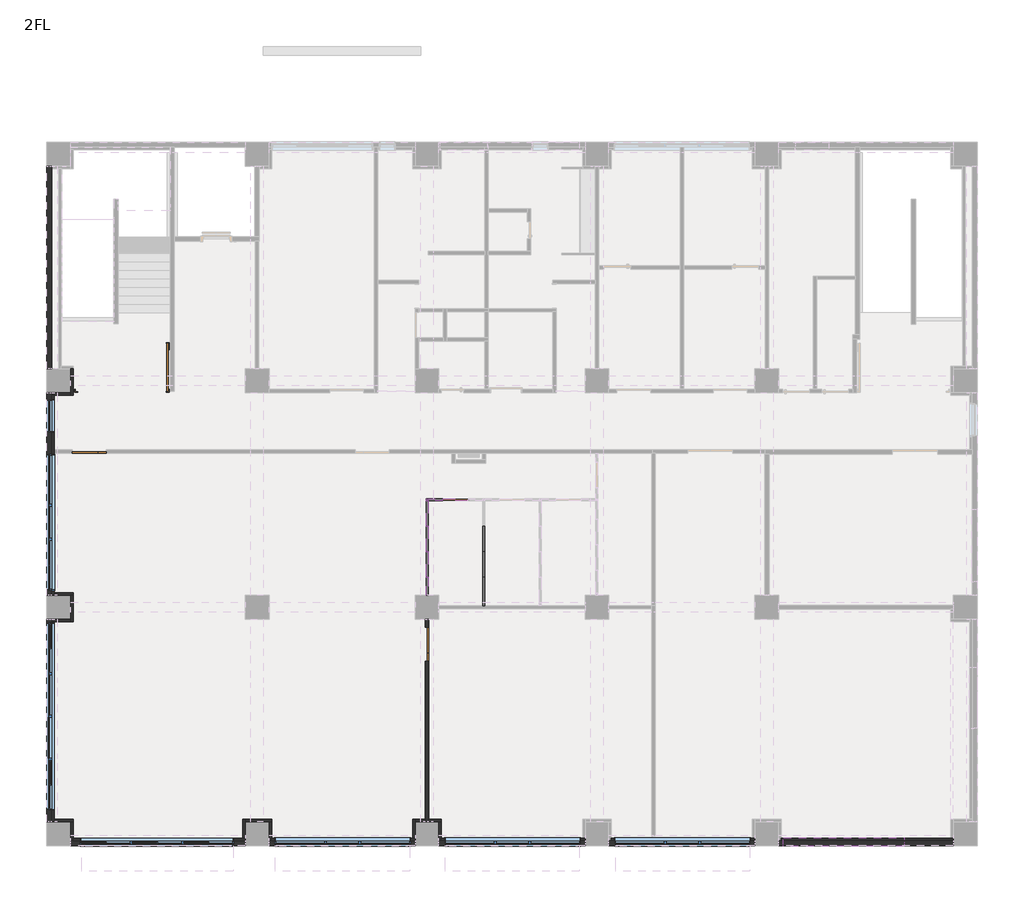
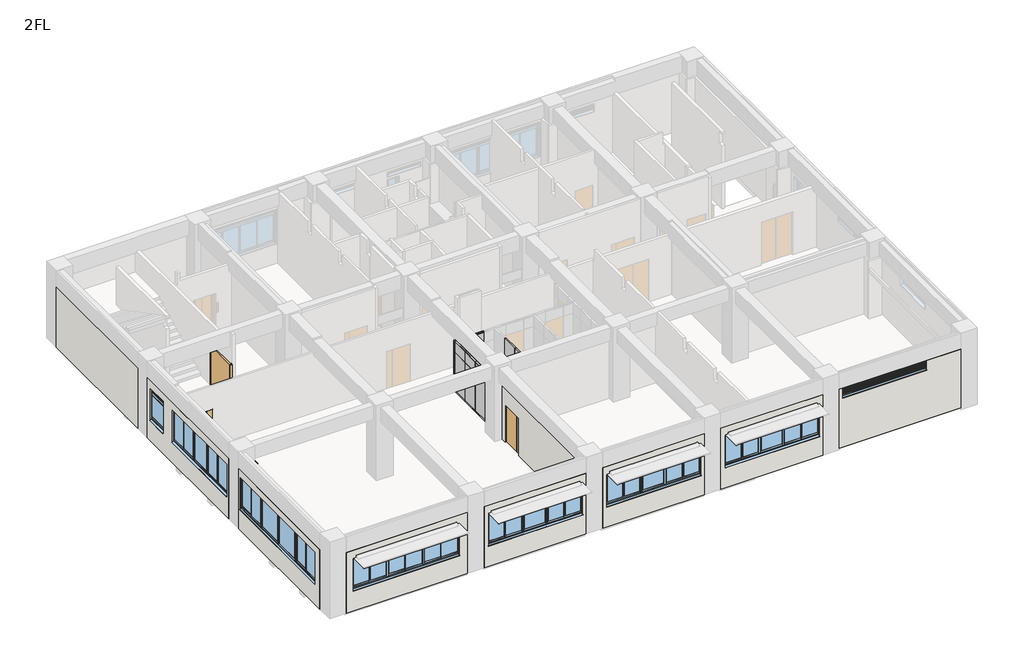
# One storey, part 1 of 7: 23 walls, 19 plates, 8 windows, 5 members, 4 doors.
"""IFC4 building model written with IfcOpenShell, lengths in millimetres."""

from ifc_helpers import new_model, si_unit, origin, place, context, project, spatial, faceted_brep, transform, mapped, element, save
from components import door_18b0804b, door_c235f466, pt1_1e1990d0, sd12_bd36843f, member_b4131282, member_8fee23aa, plate_5a323a1a, plate_79e9bfaa, plate_84f50978, plate_53a28b3e, plate_90ae5f52, plate_9f777739, plate_48083828, plate_facfa67a, pt_5_5902302a, ag_02_89f51cda, aw1_359d20a0, aw2_52e0dac3, aw3_6590dba5, aw6a_3e550bbd

model = new_model("IFC4")

# Units and contexts
model_context = context("Model", 3, world=origin())
ifc_project = project(units=[si_unit("LENGTHUNIT", "METRE", prefix="MILLI")], contexts=[model_context])

# Site, building, storey
site = spatial("IfcSite", under=ifc_project)
building = spatial("IfcBuilding", under=site)
storey = spatial("IfcBuildingStorey", under=building, Name="2FL", Elevation=4100.0)

# Doors
placement = place(None, origin())
door_shape = door_18b0804b(model_context)
element("IfcDoor", 1, ObjectType="営_親子扉 : LD2 1200*2000", at=placement, inside=storey, context=model_context, shape_type="MappedRepresentation", body=[
    mapped(door_shape, transform((1065.0, 13500.0, 4100.0), x_axis=(-1.0, 0.0, 0.0), y_axis=(0.0, -1.0, 0.0), z_axis=(0.0, 0.0, 1.0))),
])
door_2_shape = door_c235f466(model_context)
element("IfcDoor", 2, ObjectType="営_親子扉 : LD2 1200*2000", at=placement, inside=storey, context=model_context, shape_type="MappedRepresentation", body=[
    mapped(door_2_shape, transform((13000.0, 6700.0, 4100.0), x_axis=(0.0, 1.0, 0.0), y_axis=(-1.0, 0.0, 0.0), z_axis=(0.0, 0.0, 1.0))),
])
pt1_shape = pt1_1e1990d0(model_context)
element("IfcDoor", 3, ObjectType="営_パーティションドア : PT3", at=placement, inside=storey, context=model_context, shape_type="MappedRepresentation", body=[
    mapped(pt1_shape, transform((14000.0, 11800.0, 4100.0), x_axis=(-1.0, 0.0, 0.0), y_axis=(0.0, -1.0, 0.0), z_axis=(0.0, 0.0, 1.0))),
])
sd12_shape = sd12_bd36843f(model_context)
element("IfcDoor", 4, ObjectType="営_随閉扉 B階段 2～4F : SD12", at=placement, inside=storey, context=model_context, shape_type="MappedRepresentation", body=[
    mapped(sd12_shape, transform((4000.0, 15635.0, 4100.0), x_axis=(0.0, -1.0, 0.0), y_axis=(1.0, 0.0, 0.0), z_axis=(0.0, 0.0, 1.0))),
])

# Members
member_shape = member_b4131282(model_context)
element("IfcMember", 5, ObjectType="長方形マリオン : 70*70", at=placement, inside=storey, context=model_context, shape_type="MappedRepresentation", body=[
    mapped(member_shape, transform((13000.0, 11835.0, 4100.0), x_axis=(0.0, 1.0, 0.0), y_axis=(1.0, 0.0, 0.0), z_axis=(0.0, 0.0, -1.0))),
])
member_2_shape = member_8fee23aa(model_context)
element("IfcMember", 6, ObjectType="長方形マリオン : 70*70", at=placement, inside=storey, context=model_context, shape_type="MappedRepresentation", body=[
    mapped(member_2_shape, transform((13000.0, 11835.0, 6200.0), x_axis=(0.0, 1.0, 0.0), y_axis=(1.0, 0.0, 0.0), z_axis=(0.0, 0.0, -1.0))),
])
element("IfcMember", 7, ObjectType="長方形マリオン : 70*70", at=placement, inside=storey, context=model_context, shape_type="MappedRepresentation", body=[
    mapped(member_shape, transform((12965.0, 11800.0, 6200.0), x_axis=(-1.0, 0.0, 0.0), y_axis=(0.0, -1.0, 0.0), z_axis=(0.0, 0.0, 1.0))),
])
element("IfcMember", 8, ObjectType="長方形マリオン : 70*70", at=placement, inside=storey, context=model_context, shape_type="MappedRepresentation", body=[
    mapped(member_2_shape, transform((12965.0, 11800.0, 6800.0), x_axis=(-1.0, 0.0, 0.0), y_axis=(0.0, -1.0, 0.0), z_axis=(0.0, 0.0, 1.0))),
])
element("IfcMember", 9, ObjectType="長方形マリオン : 70*70", at=placement, inside=storey, context=model_context, shape_type="MappedRepresentation", body=[
    mapped(member_2_shape, transform((15000.0, 8060.0, 4700.0), x_axis=(0.0, -1.0, 0.0), y_axis=(1.0, 0.0, 0.0), z_axis=(0.0, 0.0, 1.0))),
])

# Plates
plate_shape = plate_5a323a1a(model_context)
element("IfcPlate", 10, ObjectType="営_パーティションパネル_下部 : パーティションパネル_下部", at=placement, inside=storey, context=model_context, shape_type="MappedRepresentation", body=[
    mapped(plate_shape, transform((15000.0, 8147.4999998, 4100.0), x_axis=(0.0, 1.0, 0.0), y_axis=(-1.0, 0.0, 0.0), z_axis=(0.0, 0.0, 1.0))),
])
plate_2_shape = plate_79e9bfaa(model_context)
element("IfcPlate", 11, ObjectType="営_パーティションパネル_下部 : パーティションパネル_下部", at=placement, inside=storey, context=model_context, shape_type="MappedRepresentation", body=[
    mapped(plate_2_shape, transform((15000.0, 8112.4999998, 4700.0), x_axis=(0.0, 1.0, 0.0), y_axis=(-1.0, 0.0, 0.0), z_axis=(0.0, 0.0, 1.0))),
])
plate_3_shape = plate_84f50978(model_context)
element("IfcPlate", 12, ObjectType="営_パーティションパネル_下部 : パーティションパネル_下部", at=placement, inside=storey, context=model_context, shape_type="MappedRepresentation", body=[
    mapped(plate_3_shape, transform((13000.0, 9514.9999997, 4100.0), x_axis=(0.0, 1.0, 0.0), y_axis=(-1.0, 0.0, 0.0), z_axis=(0.0, 0.0, 1.0))),
])
element("IfcPlate", 13, ObjectType="営_パーティションパネル_下部 : パーティションパネル_下部", at=placement, inside=storey, context=model_context, shape_type="MappedRepresentation", body=[
    mapped(plate_3_shape, transform((13000.0, 10414.9999997, 4100.0), x_axis=(0.0, 1.0, 0.0), y_axis=(-1.0, 0.0, 0.0), z_axis=(0.0, 0.0, 1.0))),
])
element("IfcPlate", 14, ObjectType="営_パーティションパネル_下部 : パーティションパネル_下部", at=placement, inside=storey, context=model_context, shape_type="MappedRepresentation", body=[
    mapped(plate_3_shape, transform((13000.0, 11314.9999998, 4100.0), x_axis=(0.0, 1.0, 0.0), y_axis=(-1.0, 0.0, 0.0), z_axis=(0.0, 0.0, 1.0))),
])
element("IfcPlate", 15, ObjectType="営_パーティションパネル_下部 : パーティションパネル_下部", at=placement, inside=storey, context=model_context, shape_type="MappedRepresentation", body=[
    mapped(plate_3_shape, transform((15000.0, 8614.9999997, 4700.0), x_axis=(0.0, 1.0, 0.0), y_axis=(-1.0, 0.0, 0.0), z_axis=(0.0, 0.0, 1.0))),
])
element("IfcPlate", 16, ObjectType="営_パーティションパネル_下部 : パーティションパネル_下部", at=placement, inside=storey, context=model_context, shape_type="MappedRepresentation", body=[
    mapped(plate_3_shape, transform((15000.0, 9514.9999997, 4700.0), x_axis=(0.0, 1.0, 0.0), y_axis=(-1.0, 0.0, 0.0), z_axis=(0.0, 0.0, 1.0))),
])
element("IfcPlate", 17, ObjectType="営_パーティションパネル_下部 : パーティションパネル_下部", at=placement, inside=storey, context=model_context, shape_type="MappedRepresentation", body=[
    mapped(plate_3_shape, transform((15000.0, 10414.9999997, 4700.0), x_axis=(0.0, 1.0, 0.0), y_axis=(-1.0, 0.0, 0.0), z_axis=(0.0, 0.0, 1.0))),
])
plate_4_shape = plate_53a28b3e(model_context)
element("IfcPlate", 18, ObjectType="営_パーティションパネル_上部 : パーティションパネル_上部", at=placement, inside=storey, context=model_context, shape_type="MappedRepresentation", body=[
    mapped(plate_4_shape, transform((13000.0, 9514.9999997, 6200.0), x_axis=(0.0, 1.0, 0.0), y_axis=(-1.0, 0.0, 0.0), z_axis=(0.0, 0.0, 1.0))),
])
element("IfcPlate", 19, ObjectType="営_パーティションパネル_上部 : パーティションパネル_上部", at=placement, inside=storey, context=model_context, shape_type="MappedRepresentation", body=[
    mapped(plate_4_shape, transform((13000.0, 10414.9999997, 6200.0), x_axis=(0.0, 1.0, 0.0), y_axis=(-1.0, 0.0, 0.0), z_axis=(0.0, 0.0, 1.0))),
])
element("IfcPlate", 20, ObjectType="営_パーティションパネル_上部 : パーティションパネル_上部", at=placement, inside=storey, context=model_context, shape_type="MappedRepresentation", body=[
    mapped(plate_4_shape, transform((13000.0, 11314.9999998, 6200.0), x_axis=(0.0, 1.0, 0.0), y_axis=(-1.0, 0.0, 0.0), z_axis=(0.0, 0.0, 1.0))),
])
element("IfcPlate", 21, ObjectType="営_パーティションパネル_上部 : パーティションパネル_上部", at=placement, inside=storey, context=model_context, shape_type="MappedRepresentation", body=[
    mapped(plate_4_shape, transform((14000.0, 11800.0, 6200.0), x_axis=(1.0, 0.0, 0.0), y_axis=(0.0, 1.0, 0.0), z_axis=(0.0, 0.0, 1.0))),
])
plate_5_shape = plate_90ae5f52(model_context)
element("IfcPlate", 22, ObjectType="営_パーティションパネル_下部 : パーティションパネル_下部", at=placement, inside=storey, context=model_context, shape_type="MappedRepresentation", body=[
    mapped(plate_5_shape, transform((13292.5, 11800.0, 4100.0), x_axis=(1.0, 0.0, 0.0), y_axis=(0.0, 1.0, 0.0), z_axis=(0.0, 0.0, 1.0))),
])
plate_6_shape = plate_9f777739(model_context)
element("IfcPlate", 23, ObjectType="営_パーティションパネル_上部 : パーティションパネル_上部", at=placement, inside=storey, context=model_context, shape_type="MappedRepresentation", body=[
    mapped(plate_6_shape, transform((13292.5, 11800.0, 6200.0), x_axis=(1.0, 0.0, 0.0), y_axis=(0.0, 1.0, 0.0), z_axis=(0.0, 0.0, 1.0))),
])
plate_7_shape = plate_48083828(model_context)
element("IfcPlate", 24, ObjectType="営_パーティションパネル_下部 : パーティションパネル_下部", at=placement, inside=storey, context=model_context, shape_type="MappedRepresentation", body=[
    mapped(plate_7_shape, transform((13000.0, 8742.4999998, 4100.0), x_axis=(0.0, 1.0, 0.0), y_axis=(-1.0, 0.0, 0.0), z_axis=(0.0, 0.0, 1.0))),
])
plate_8_shape = plate_facfa67a(model_context)
element("IfcPlate", 25, ObjectType="営_パーティションパネル_上部 : パーティションパネル_上部", at=placement, inside=storey, context=model_context, shape_type="MappedRepresentation", body=[
    mapped(plate_8_shape, transform((13000.0, 8742.4999998, 6200.0), x_axis=(0.0, 1.0, 0.0), y_axis=(-1.0, 0.0, 0.0), z_axis=(0.0, 0.0, 1.0))),
])
pt_5_shape = pt_5_5902302a(model_context)
element("IfcPlate", 26, ObjectType="営_パーティションパネル_下部 : パーティションパネル_下部", at=placement, inside=storey, context=model_context, shape_type="MappedRepresentation", body=[
    mapped(pt_5_shape, transform((15000.0, 8614.9999997, 4100.0), x_axis=(0.0, 1.0, 0.0), y_axis=(-1.0, 0.0, 0.0), z_axis=(0.0, 0.0, 1.0))),
])
element("IfcPlate", 27, ObjectType="営_パーティションパネル_下部 : パーティションパネル_下部", at=placement, inside=storey, context=model_context, shape_type="MappedRepresentation", body=[
    mapped(pt_5_shape, transform((15000.0, 10414.9999997, 4100.0), x_axis=(0.0, 1.0, 0.0), y_axis=(-1.0, 0.0, 0.0), z_axis=(0.0, 0.0, 1.0))),
])
element("IfcPlate", 28, ObjectType="営_パーティションパネル_下部 : PT-5", at=placement, inside=storey, context=model_context, shape_type="MappedRepresentation", body=[
    mapped(pt_5_shape, transform((15000.0, 9514.9999997, 4100.0), x_axis=(0.0, 1.0, 0.0), y_axis=(-1.0, 0.0, 0.0), z_axis=(0.0, 0.0, 1.0))),
])

# Walls
element("IfcWall", 29, ObjectType="(外壁)RC150+20", at=placement, inside=storey, context=model_context, shape_type="Brep", body=[
    faceted_brep([(-250.0, 15580.0, 7200.0), (-250.0, 8420.0, 7200.0), (-250.0, 8420.0, 4000.0), (-250.0, 15580.0, 4000.0), (-250.0, 13410.0, 6820.0), (-250.0, 13410.0, 5165.0), (-250.0, 8590.0, 5165.0), (-250.0, 8590.0, 6820.0), (-250.0, 15345.0, 6820.0), (-250.0, 15345.0, 5165.0), (-250.0, 14165.0, 5165.0), (-250.0, 14165.0, 6820.0), (-420.0, 8420.0, 7200.0), (-420.0, 15580.0, 7200.0), (-420.0, 15580.0, 4000.0), (-420.0, 8420.0, 4000.0), (-420.0, 8620.0, 5075.0), (-420.0, 13380.0, 5075.0), (-420.0, 13380.0, 6795.0), (-420.0, 8620.0, 6795.0), (-420.0, 14195.0, 5075.0), (-420.0, 15315.0, 5075.0), (-420.0, 15315.0, 6795.0), (-420.0, 14195.0, 6795.0), (-335.0, 8420.0, 4000.0), (-325.0, 15580.0, 4000.0), (-260.0, 13410.0, 6820.0), (-260.0, 13410.0, 5165.0), (-260.0, 8590.0, 5165.0), (-260.0, 8590.0, 6820.0), (-260.0, 13400.0, 5165.0), (-260.0, 8600.0, 5165.0), (-260.0, 8600.0, 6815.0), (-260.0, 13400.0, 6815.0), (-360.0, 13400.0, 6815.0), (-360.0, 13400.0, 5082.5), (-260.0, 13400.0, 5095.0), (-260.0, 8600.0, 5095.0), (-360.0, 8600.0, 5082.5), (-360.0, 8600.0, 6815.0), (-360.0, 13380.0, 5082.5), (-360.0, 8620.0, 5082.5), (-360.0, 8620.0, 6795.0), (-360.0, 13380.0, 6795.0), (-260.0, 15345.0, 6820.0), (-260.0, 15345.0, 5165.0), (-260.0, 14165.0, 5165.0), (-260.0, 14165.0, 6820.0), (-260.0, 15335.0, 5165.0), (-260.0, 14175.0, 5165.0), (-260.0, 14175.0, 6815.0), (-260.0, 15335.0, 6815.0), (-360.0, 15335.0, 6815.0), (-360.0, 15335.0, 5082.5), (-260.0, 15335.0, 5095.0), (-260.0, 14175.0, 5095.0), (-360.0, 14175.0, 5082.5), (-360.0, 14175.0, 6815.0), (-360.0, 15315.0, 5082.5), (-360.0, 14195.0, 5082.5), (-360.0, 14195.0, 6795.0), (-360.0, 15315.0, 6795.0)], [[[0, 1, 2, 3], [4, 5, 6, 7], [8, 9, 10, 11]], [[12, 13, 14, 15], [16, 17, 18, 19], [20, 21, 22, 23]], [[2, 24, 15, 14, 25, 3]], [[26, 27, 5, 4]], [[28, 29, 7, 6]], [[5, 27, 30, 31, 28, 6]], [[27, 26, 29, 28, 31, 32, 33, 30]], [[26, 4, 7, 29]], [[30, 33, 34, 35, 36]], [[32, 31, 37, 38, 39]], [[36, 35, 40, 17, 16, 41, 38, 37]], [[35, 34, 39, 38, 41, 42, 43, 40]], [[33, 32, 39, 34]], [[31, 30, 36, 37]], [[17, 40, 43, 18]], [[41, 16, 19, 42]], [[43, 42, 19, 18]], [[44, 45, 9, 8]], [[46, 47, 11, 10]], [[9, 45, 48, 49, 46, 10]], [[45, 44, 47, 46, 49, 50, 51, 48]], [[44, 8, 11, 47]], [[48, 51, 52, 53, 54]], [[50, 49, 55, 56, 57]], [[54, 53, 58, 21, 20, 59, 56, 55]], [[53, 52, 57, 56, 59, 60, 61, 58]], [[51, 50, 57, 52]], [[49, 48, 54, 55]], [[21, 58, 61, 22]], [[59, 20, 23, 60]], [[61, 60, 23, 22]], [[15, 24, 2, 1, 12]], [[3, 25, 14, 13, 0]], [[1, 0, 13, 12]]]),
    faceted_brep([(-250.0, 23580.0, 7200.0), (-250.0, 16420.0, 7200.0), (-250.0, 16420.0, 4000.0), (-250.0, 23580.0, 4000.0), (-420.0, 16420.0, 7200.0), (-420.0, 23580.0, 7200.0), (-420.0, 23580.0, 4000.0), (-420.0, 16420.0, 4000.0), (-325.0, 16420.0, 4000.0), (-325.0, 23580.0, 4000.0)], [[[0, 1, 2, 3]], [[4, 5, 6, 7]], [[2, 8, 7, 6, 9, 3]], [[7, 8, 2, 1, 4]], [[3, 9, 6, 5, 0]], [[1, 0, 5, 4]]]),
    faceted_brep([(-250.0, 420.0, 4000.0), (-250.0, 7580.0, 4000.0), (-250.0, 7580.0, 7200.0), (-250.0, 420.0, 7200.0), (-250.0, 7465.0, 6820.0), (-250.0, 7465.0, 5165.0), (-250.0, 835.0, 5165.0), (-250.0, 835.0, 6820.0), (-420.0, 7580.0, 4000.0), (-420.0, 420.0, 4000.0), (-420.0, 420.0, 7200.0), (-420.0, 7580.0, 7200.0), (-420.0, 865.0, 5075.0), (-420.0, 7435.0, 5075.0), (-420.0, 7435.0, 6795.0), (-420.0, 865.0, 6795.0), (-260.0, 7465.0, 6820.0), (-260.0, 7465.0, 5165.0), (-260.0, 835.0, 5165.0), (-260.0, 835.0, 6820.0), (-260.0, 7455.0, 5165.0), (-260.0, 845.0, 5165.0), (-260.0, 845.0, 6815.0), (-260.0, 7455.0, 6815.0), (-360.0, 7455.0, 6815.0), (-360.0, 7455.0, 5082.5), (-260.0, 7455.0, 5095.0), (-260.0, 845.0, 5095.0), (-360.0, 845.0, 5082.5), (-360.0, 845.0, 6815.0), (-360.0, 7435.0, 5082.5), (-360.0, 865.0, 5082.5), (-360.0, 865.0, 6795.0), (-360.0, 7435.0, 6795.0)], [[[0, 1, 2, 3], [4, 5, 6, 7]], [[8, 9, 10, 11], [12, 13, 14, 15]], [[0, 9, 8, 1]], [[16, 17, 5, 4]], [[18, 19, 7, 6]], [[5, 17, 20, 21, 18, 6]], [[17, 16, 19, 18, 21, 22, 23, 20]], [[16, 4, 7, 19]], [[20, 23, 24, 25, 26]], [[22, 21, 27, 28, 29]], [[26, 25, 30, 13, 12, 31, 28, 27]], [[25, 24, 29, 28, 31, 32, 33, 30]], [[23, 22, 29, 24]], [[21, 20, 26, 27]], [[13, 30, 33, 14]], [[31, 12, 15, 32]], [[33, 32, 15, 14]], [[9, 0, 3, 10]], [[1, 8, 11, 2]], [[3, 2, 11, 10]]]),
])
element("IfcWall", 30, ObjectType="(外壁)RC150+20", at=placement, inside=storey, context=model_context, shape_type="Brep", body=[
    faceted_brep([(420.0, -250.0, 7250.0), (6580.0, -250.0, 7250.0), (6580.0, -250.0, 4000.0), (420.0, -250.0, 4000.0), (752.5, -250.0, 6820.0), (752.5, -250.0, 5165.0), (6177.5, -250.0, 5165.0), (6177.5, -250.0, 6820.0), (6580.0, -420.0, 7250.0), (420.0, -420.0, 7250.0), (420.0, -420.0, 4000.0), (6580.0, -420.0, 4000.0), (6147.5, -420.0, 5075.0), (782.5, -420.0, 5075.0), (782.5, -420.0, 6795.0), (6147.5, -420.0, 6795.0), (420.0, -325.0, 4000.0), (6580.0, -325.0, 4000.0), (752.5, -260.0, 6820.0), (752.5, -260.0, 5165.0), (6177.5, -260.0, 5165.0), (6177.5, -260.0, 6820.0), (762.5, -260.0, 5165.0), (6167.5, -260.0, 5165.0), (6167.5, -260.0, 6815.0), (762.5, -260.0, 6815.0), (762.5, -360.0, 6815.0), (762.5, -360.0, 5082.5), (762.5, -260.0, 5095.0), (6167.5, -260.0, 5095.0), (6167.5, -360.0, 5082.5), (6167.5, -360.0, 6815.0), (782.5, -360.0, 5082.5), (6147.5, -360.0, 5082.5), (6147.5, -360.0, 6795.0), (782.5, -360.0, 6795.0)], [[[0, 1, 2, 3], [4, 5, 6, 7]], [[8, 9, 10, 11], [12, 13, 14, 15]], [[10, 16, 3, 2, 17, 11]], [[18, 19, 5, 4]], [[20, 21, 7, 6]], [[5, 19, 22, 23, 20, 6]], [[19, 18, 21, 20, 23, 24, 25, 22]], [[18, 4, 7, 21]], [[22, 25, 26, 27, 28]], [[24, 23, 29, 30, 31]], [[28, 27, 32, 13, 12, 33, 30, 29]], [[27, 26, 31, 30, 33, 34, 35, 32]], [[25, 24, 31, 26]], [[23, 22, 28, 29]], [[13, 32, 35, 14]], [[33, 12, 15, 34]], [[35, 34, 15, 14]], [[11, 17, 2, 1, 8]], [[0, 3, 16, 10, 9]], [[1, 0, 9, 8]]]),
    faceted_brep([(7420.0, -250.0, 7250.0), (12580.0, -250.0, 7250.0), (12580.0, -250.0, 4000.0), (7420.0, -250.0, 4000.0), (7610.0, -250.0, 6820.0), (7610.0, -250.0, 5165.0), (12430.0, -250.0, 5165.0), (12430.0, -250.0, 6820.0), (12580.0, -420.0, 7250.0), (7420.0, -420.0, 7250.0), (7420.0, -420.0, 4000.0), (12580.0, -420.0, 4000.0), (12400.0, -420.0, 5075.0), (7640.0, -420.0, 5075.0), (7640.0, -420.0, 6795.0), (12400.0, -420.0, 6795.0), (7420.0, -325.0, 4000.0), (12580.0, -325.0, 4000.0), (7610.0, -260.0, 6820.0), (7610.0, -260.0, 5165.0), (12430.0, -260.0, 5165.0), (12430.0, -260.0, 6820.0), (7620.0, -260.0, 5165.0), (12420.0, -260.0, 5165.0), (12420.0, -260.0, 6815.0), (7620.0, -260.0, 6815.0), (7620.0, -360.0, 6815.0), (7620.0, -360.0, 5082.5), (7620.0, -260.0, 5095.0), (12420.0, -260.0, 5095.0), (12420.0, -360.0, 5082.5), (12420.0, -360.0, 6815.0), (7640.0, -360.0, 5082.5), (12400.0, -360.0, 5082.5), (12400.0, -360.0, 6795.0), (7640.0, -360.0, 6795.0)], [[[0, 1, 2, 3], [4, 5, 6, 7]], [[8, 9, 10, 11], [12, 13, 14, 15]], [[10, 16, 3, 2, 17, 11]], [[3, 16, 10, 9, 0]], [[11, 17, 2, 1, 8]], [[1, 0, 9, 8]], [[18, 19, 5, 4]], [[20, 21, 7, 6]], [[5, 19, 22, 23, 20, 6]], [[19, 18, 21, 20, 23, 24, 25, 22]], [[18, 4, 7, 21]], [[22, 25, 26, 27, 28]], [[24, 23, 29, 30, 31]], [[28, 27, 32, 13, 12, 33, 30, 29]], [[27, 26, 31, 30, 33, 34, 35, 32]], [[25, 24, 31, 26]], [[23, 22, 28, 29]], [[13, 32, 35, 14]], [[33, 12, 15, 34]], [[35, 34, 15, 14]]]),
    faceted_brep([(13420.0, -250.0, 7250.0), (18580.0, -250.0, 7250.0), (18580.0, -250.0, 4000.0), (13420.0, -250.0, 4000.0), (18430.0, -250.0, 5165.0), (18430.0, -250.0, 6820.0), (13610.0, -250.0, 6820.0), (13610.0, -250.0, 5165.0), (18580.0, -420.0, 7250.0), (13420.0, -420.0, 7250.0), (13420.0, -420.0, 4000.0), (18580.0, -420.0, 4000.0), (18400.0, -420.0, 5075.0), (13640.0, -420.0, 5075.0), (13640.0, -420.0, 6795.0), (18400.0, -420.0, 6795.0), (13420.0, -325.0, 4000.0), (18580.0, -325.0, 4000.0), (13610.0, -260.0, 6820.0), (13610.0, -260.0, 5165.0), (18430.0, -260.0, 5165.0), (18430.0, -260.0, 6820.0), (13620.0, -260.0, 5165.0), (18420.0, -260.0, 5165.0), (18420.0, -260.0, 6815.0), (13620.0, -260.0, 6815.0), (13620.0, -360.0, 6815.0), (13620.0, -360.0, 5082.5), (13620.0, -260.0, 5095.0), (18420.0, -260.0, 5095.0), (18420.0, -360.0, 5082.5), (18420.0, -360.0, 6815.0), (13640.0, -360.0, 5082.5), (18400.0, -360.0, 5082.5), (18400.0, -360.0, 6795.0), (13640.0, -360.0, 6795.0)], [[[0, 1, 2, 3], [4, 5, 6, 7]], [[8, 9, 10, 11], [12, 13, 14, 15]], [[10, 16, 3, 2, 17, 11]], [[3, 16, 10, 9, 0]], [[11, 17, 2, 1, 8]], [[1, 0, 9, 8]], [[18, 19, 7, 6]], [[20, 21, 5, 4]], [[19, 22, 23, 20, 4, 7]], [[19, 18, 21, 20, 23, 24, 25, 22]], [[21, 18, 6, 5]], [[22, 25, 26, 27, 28]], [[24, 23, 29, 30, 31]], [[28, 27, 32, 13, 12, 33, 30, 29]], [[27, 26, 31, 30, 33, 34, 35, 32]], [[25, 24, 31, 26]], [[23, 22, 28, 29]], [[13, 32, 35, 14]], [[33, 12, 15, 34]], [[35, 34, 15, 14]]]),
    faceted_brep([(19420.0, -250.0, 7250.0), (24580.0, -250.0, 7250.0), (24580.0, -250.0, 4090.0), (24580.0, -250.0, 4000.0), (21200.0, -250.0, 4000.0), (20950.0, -250.0, 4000.0), (19420.0, -250.0, 4000.0), (19610.0, -250.0, 6820.0), (19610.0, -250.0, 5165.0), (24430.0, -250.0, 5165.0), (24430.0, -250.0, 6820.0), (24580.0, -420.0, 7250.0), (19420.0, -420.0, 7250.0), (19420.0, -420.0, 4000.0), (24580.0, -420.0, 4000.0), (24400.0, -420.0, 5075.0), (19640.0, -420.0, 5075.0), (19640.0, -420.0, 6795.0), (24400.0, -420.0, 6795.0), (19420.0, -325.0, 4000.0), (19610.0, -260.0, 6820.0), (19610.0, -260.0, 5165.0), (24430.0, -260.0, 5165.0), (24430.0, -260.0, 6820.0), (19620.0, -260.0, 5165.0), (24420.0, -260.0, 5165.0), (24420.0, -260.0, 6815.0), (19620.0, -260.0, 6815.0), (19620.0, -360.0, 6815.0), (19620.0, -360.0, 5082.5), (19620.0, -260.0, 5095.0), (24420.0, -260.0, 5095.0), (24420.0, -360.0, 5082.5), (24420.0, -360.0, 6815.0), (19640.0, -360.0, 5082.5), (24400.0, -360.0, 5082.5), (24400.0, -360.0, 6795.0), (19640.0, -360.0, 6795.0)], [[[0, 1, 2, 3, 4, 5, 6], [7, 8, 9, 10]], [[11, 12, 13, 14], [15, 16, 17, 18]], [[13, 19, 6, 5, 4, 3, 14]], [[20, 21, 8, 7]], [[22, 23, 10, 9]], [[8, 21, 24, 25, 22, 9]], [[21, 20, 23, 22, 25, 26, 27, 24]], [[20, 7, 10, 23]], [[24, 27, 28, 29, 30]], [[26, 25, 31, 32, 33]], [[30, 29, 34, 16, 15, 35, 32, 31]], [[29, 28, 33, 32, 35, 36, 37, 34]], [[27, 26, 33, 28]], [[25, 24, 30, 31]], [[16, 34, 37, 17]], [[35, 15, 18, 36]], [[37, 36, 18, 17]], [[6, 19, 13, 12, 0]], [[14, 3, 2, 1, 11]], [[1, 0, 12, 11]]]),
    faceted_brep([(25420.0, -250.0, 7250.0), (31580.0, -250.0, 7250.0), (31580.0, -250.0, 4090.0), (25420.0, -250.0, 4090.0), (25572.7, -250.0, 7235.0), (25572.7, -250.0, 6815.0), (29852.7, -250.0, 6815.0), (29852.7, -250.0, 7235.0), (31580.0, -420.0, 7250.0), (25420.0, -420.0, 7250.0), (25420.0, -420.0, 4090.0), (31580.0, -420.0, 4090.0), (29822.7, -420.0, 6725.0), (25602.7, -420.0, 6725.0), (25602.7, -420.0, 7210.0), (29822.7, -420.0, 7210.0), (25572.7, -290.0, 7235.0), (25572.7, -290.0, 6815.0), (29852.7, -290.0, 6815.0), (29852.7, -290.0, 7235.0), (25582.7, -290.0, 6815.0), (29842.7, -290.0, 6815.0), (29842.7, -290.0, 7230.0), (25582.7, -290.0, 7230.0), (25582.7, -360.0, 7230.0), (25582.7, -360.0, 6734.2307692), (25582.7, -290.0, 6745.0), (29842.7, -290.0, 6745.0), (29842.7, -360.0, 6734.2307692), (29842.7, -360.0, 7230.0), (25602.7, -360.0, 6734.2307692), (29822.7, -360.0, 6734.2307692), (29822.7, -360.0, 7210.0), (25602.7, -360.0, 7210.0)], [[[0, 1, 2, 3], [4, 5, 6, 7]], [[8, 9, 10, 11], [12, 13, 14, 15]], [[9, 0, 3, 10]], [[1, 8, 11, 2]], [[1, 0, 9, 8]], [[16, 17, 5, 4]], [[18, 19, 7, 6]], [[5, 17, 20, 21, 18, 6]], [[17, 16, 19, 18, 21, 22, 23, 20]], [[16, 4, 7, 19]], [[20, 23, 24, 25, 26]], [[22, 21, 27, 28, 29]], [[26, 25, 30, 13, 12, 31, 28, 27]], [[25, 24, 29, 28, 31, 32, 33, 30]], [[23, 22, 29, 24]], [[21, 20, 26, 27]], [[13, 30, 33, 14]], [[31, 12, 15, 32]], [[33, 32, 15, 14]], [[3, 2, 11, 10]]]),
])
element("IfcWall", 31, ObjectType="(内壁)W4", at=placement, inside=storey, context=model_context, shape_type="Brep", body=[
    faceted_brep([(13060.0, 6100.0, 4100.0), (13060.0, 6100.0, 6100.0), (13060.0, 7300.0, 6100.0), (13060.0, 7300.0, 4100.0), (13060.0, 7580.0, 4100.0), (13060.0, 7580.0, 7200.0), (13060.0, 510.0, 7200.0), (13060.0, 420.0, 7200.0), (13060.0, 420.0, 4100.0), (13060.0, 510.0, 4100.0), (12940.0, 6100.0, 6100.0), (12940.0, 6100.0, 4100.0), (12940.0, 510.0, 4100.0), (12940.0, 420.0, 4100.0), (12940.0, 420.0, 7200.0), (12940.0, 510.0, 7200.0), (12940.0, 7580.0, 7200.0), (12940.0, 7580.0, 4100.0), (12940.0, 7300.0, 4100.0), (12940.0, 7300.0, 6100.0)], [[[0, 1, 2, 3, 4, 5, 6, 7, 8, 9]], [[10, 11, 12, 13, 14, 15, 16, 17, 18, 19]], [[11, 0, 9, 8, 13, 12]], [[3, 18, 17, 4]], [[11, 10, 1, 0]], [[19, 18, 3, 2]], [[10, 19, 2, 1]], [[13, 8, 7, 14]], [[4, 17, 16, 5]], [[7, 6, 5, 16, 15, 14]]]),
])
element("IfcWall", 32, ObjectType="(内壁)W5", at=placement, inside=storey, context=model_context, shape_type="Brep", body=[
    faceted_brep([(420.0, 16420.0, 4100.0), (420.0, 15580.0, 4100.0), (420.0, 15490.0, 4100.0), (420.0, 15490.0, 7200.0), (420.0, 15580.0, 7200.0), (420.0, 16420.0, 7200.0), (510.0, 16420.0, 4100.0), (510.0, 16420.0, 7200.0), (510.0, 15490.0, 7200.0), (510.0, 15490.0, 4100.0)], [[[0, 1, 2, 3, 4, 5]], [[6, 7, 8, 9]], [[2, 1, 0, 6, 9]], [[5, 4, 3, 8, 7]], [[0, 5, 7, 6]], [[3, 2, 9, 8]]]),
])
element("IfcWall", 33, ObjectType="(内壁)W5", at=placement, inside=storey, context=model_context, shape_type="Brep", body=[
    faceted_brep([(420.0, 15580.0, 4100.0), (-250.0, 15580.0, 4100.0), (-250.0, 15580.0, 7200.0), (420.0, 15580.0, 7200.0), (420.0, 15490.0, 4100.0), (420.0, 15490.0, 7200.0), (-160.0, 15490.0, 7200.0), (-250.0, 15490.0, 7200.0), (-250.0, 15490.0, 4100.0)], [[[0, 1, 2, 3]], [[4, 5, 6, 7, 8]], [[1, 0, 4, 8]], [[3, 2, 7, 6, 5]], [[0, 3, 5, 4]], [[2, 1, 8, 7]]]),
])
element("IfcWall", 34, ObjectType="(内壁)W5", at=placement, inside=storey, context=model_context, shape_type="Brep", body=[
    faceted_brep([(-250.0, 15490.0, 4090.0), (-250.0, 8420.0, 4090.0), (-250.0, 8420.0, 7200.0), (-250.0, 15490.0, 7200.0), (-250.0, 15490.0, 4100.0), (-250.0, 15345.0, 5165.0), (-250.0, 15345.0, 6820.0), (-250.0, 14165.0, 6820.0), (-250.0, 14165.0, 5165.0), (-250.0, 13410.0, 5165.0), (-250.0, 13410.0, 6820.0), (-250.0, 8590.0, 6820.0), (-250.0, 8590.0, 5165.0), (-160.0, 8420.0, 4090.0), (-160.0, 15490.0, 4090.0), (-160.0, 15490.0, 7200.0), (-160.0, 8510.0, 7200.0), (-160.0, 8420.0, 7200.0), (-160.0, 15345.0, 6820.0), (-160.0, 15345.0, 5165.0), (-160.0, 14165.0, 5165.0), (-160.0, 14165.0, 6820.0), (-160.0, 13410.0, 6820.0), (-160.0, 13410.0, 5165.0), (-160.0, 8590.0, 5165.0), (-160.0, 8590.0, 6820.0)], [[[0, 1, 2, 3, 4], [5, 6, 7, 8], [9, 10, 11, 12]], [[13, 14, 15, 16, 17], [18, 19, 20, 21], [22, 23, 24, 25]], [[1, 0, 14, 13]], [[3, 2, 17, 16, 15]], [[0, 4, 3, 15, 14]], [[2, 1, 13, 17]], [[18, 6, 5, 19]], [[20, 8, 7, 21]], [[19, 5, 8, 20]], [[6, 18, 21, 7]], [[22, 10, 9, 23]], [[24, 12, 11, 25]], [[23, 9, 12, 24]], [[10, 22, 25, 11]]]),
])
element("IfcWall", 35, ObjectType="(内壁)W5", at=placement, inside=storey, context=model_context, shape_type="Brep", body=[
    faceted_brep([(-160.0, 8420.0, 4000.0), (420.0, 8420.0, 4000.0), (510.0, 8420.0, 4000.0), (510.0, 8420.0, 7200.0), (420.0, 8420.0, 7200.0), (-160.0, 8420.0, 7200.0), (-160.0, 8420.0, 4090.0), (-160.0, 8510.0, 4000.0), (-160.0, 8510.0, 7200.0), (510.0, 8510.0, 7200.0), (510.0, 8510.0, 4000.0)], [[[0, 1, 2, 3, 4, 5, 6]], [[7, 8, 9, 10]], [[2, 1, 0, 7, 10]], [[5, 4, 3, 9, 8]], [[0, 6, 5, 8, 7]], [[3, 2, 10, 9]]]),
])
element("IfcWall", 36, ObjectType="(内壁)W5", at=placement, inside=storey, context=model_context, shape_type="Brep", body=[
    faceted_brep([(420.0, 8420.0, 4000.0), (420.0, 7580.0, 4000.0), (420.0, 7490.0, 4000.0), (420.0, 7490.0, 7200.0), (420.0, 7580.0, 7200.0), (420.0, 8420.0, 7200.0), (510.0, 8420.0, 4000.0), (510.0, 8420.0, 7200.0), (510.0, 7490.0, 7200.0), (510.0, 7490.0, 4000.0)], [[[0, 1, 2, 3, 4, 5]], [[6, 7, 8, 9]], [[2, 1, 0, 6, 9]], [[5, 4, 3, 8, 7]], [[0, 5, 7, 6]], [[3, 2, 9, 8]]]),
])
element("IfcWall", 37, ObjectType="(内壁)W5", at=placement, inside=storey, context=model_context, shape_type="Brep", body=[
    faceted_brep([(420.0, 7580.0, 4000.0), (-250.0, 7580.0, 4000.0), (-250.0, 7580.0, 7200.0), (420.0, 7580.0, 7200.0), (420.0, 7490.0, 4000.0), (420.0, 7490.0, 7200.0), (-160.0, 7490.0, 7200.0), (-250.0, 7490.0, 7200.0), (-250.0, 7490.0, 4000.0), (-160.0, 7490.0, 4000.0)], [[[0, 1, 2, 3]], [[4, 5, 6, 7, 8, 9]], [[1, 0, 4, 9, 8]], [[3, 2, 7, 6, 5]], [[0, 3, 5, 4]], [[2, 1, 8, 7]]]),
])
element("IfcWall", 38, ObjectType="(内壁)W5", at=placement, inside=storey, context=model_context, shape_type="Brep", body=[
    faceted_brep([(-250.0, 7490.0, 4000.0), (-250.0, 420.0, 4000.0), (-250.0, 420.0, 7200.0), (-250.0, 7490.0, 7200.0), (-250.0, 7465.0, 5165.0), (-250.0, 7465.0, 6820.0), (-250.0, 835.0, 6820.0), (-250.0, 835.0, 5165.0), (-160.0, 420.0, 4000.0), (-160.0, 510.0, 4000.0), (-160.0, 7490.0, 4000.0), (-160.0, 7490.0, 7200.0), (-160.0, 510.0, 7200.0), (-160.0, 420.0, 7200.0), (-160.0, 7465.0, 6820.0), (-160.0, 7465.0, 5165.0), (-160.0, 835.0, 5165.0), (-160.0, 835.0, 6820.0)], [[[0, 1, 2, 3], [4, 5, 6, 7]], [[8, 9, 10, 11, 12, 13], [14, 15, 16, 17]], [[1, 0, 10, 9, 8]], [[3, 2, 13, 12, 11]], [[0, 3, 11, 10]], [[2, 1, 8, 13]], [[14, 5, 4, 15]], [[16, 7, 6, 17]], [[15, 4, 7, 16]], [[5, 14, 17, 6]]]),
])
element("IfcWall", 39, ObjectType="(内壁)W5", at=placement, inside=storey, context=model_context, shape_type="Brep", body=[
    faceted_brep([(-160.0, 420.0, 4000.0), (420.0, 420.0, 4000.0), (510.0, 420.0, 4000.0), (510.0, 420.0, 7200.0), (420.0, 420.0, 7200.0), (-160.0, 420.0, 7200.0), (-160.0, 510.0, 4000.0), (-160.0, 510.0, 7200.0), (510.0, 510.0, 7200.0), (510.0, 510.0, 4000.0)], [[[0, 1, 2, 3, 4, 5]], [[6, 7, 8, 9]], [[2, 1, 0, 6, 9]], [[5, 4, 3, 8, 7]], [[0, 5, 7, 6]], [[3, 2, 9, 8]]]),
])
element("IfcWall", 40, ObjectType="(内壁)W5", at=placement, inside=storey, context=model_context, shape_type="Brep", body=[
    faceted_brep([(420.0, 420.0, 4000.0), (420.0, -250.0, 4000.0), (420.0, -250.0, 7200.0), (420.0, 420.0, 7200.0), (510.0, 420.0, 4000.0), (510.0, 420.0, 7200.0), (510.0, -160.0, 7200.0), (510.0, -250.0, 7200.0), (510.0, -250.0, 4000.0), (510.0, -160.0, 4000.0)], [[[0, 1, 2, 3]], [[4, 5, 6, 7, 8, 9]], [[1, 0, 4, 9, 8]], [[3, 2, 7, 6, 5]], [[0, 3, 5, 4]], [[2, 1, 8, 7]]]),
])
element("IfcWall", 41, ObjectType="(内壁)W5", at=placement, inside=storey, context=model_context, shape_type="Brep", body=[
    faceted_brep([(510.0, -250.0, 4000.0), (6580.0, -250.0, 4000.0), (6580.0, -250.0, 7200.0), (510.0, -250.0, 7200.0), (752.5, -250.0, 5165.0), (752.5, -250.0, 6820.0), (6177.5, -250.0, 6820.0), (6177.5, -250.0, 5165.0), (6580.0, -160.0, 4000.0), (6490.0, -160.0, 4000.0), (510.0, -160.0, 4000.0), (510.0, -160.0, 7200.0), (6490.0, -160.0, 7200.0), (6580.0, -160.0, 7200.0), (752.5, -160.0, 6820.0), (752.5, -160.0, 5165.0), (6177.5, -160.0, 5165.0), (6177.5, -160.0, 6820.0)], [[[0, 1, 2, 3], [4, 5, 6, 7]], [[8, 9, 10, 11, 12, 13], [14, 15, 16, 17]], [[1, 0, 10, 9, 8]], [[3, 2, 13, 12, 11]], [[0, 3, 11, 10]], [[2, 1, 8, 13]], [[14, 5, 4, 15]], [[16, 7, 6, 17]], [[15, 4, 7, 16]], [[5, 14, 17, 6]]]),
])
element("IfcWall", 42, ObjectType="(内壁)W5", at=placement, inside=storey, context=model_context, shape_type="Brep", body=[
    faceted_brep([(6580.0, -160.0, 4000.0), (6580.0, 420.0, 4000.0), (6580.0, 510.0, 4000.0), (6580.0, 510.0, 7200.0), (6580.0, 420.0, 7200.0), (6580.0, -160.0, 7200.0), (6490.0, -160.0, 4000.0), (6490.0, -160.0, 7200.0), (6490.0, 510.0, 7200.0), (6490.0, 510.0, 4000.0)], [[[0, 1, 2, 3, 4, 5]], [[6, 7, 8, 9]], [[2, 1, 0, 6, 9]], [[5, 4, 3, 8, 7]], [[0, 5, 7, 6]], [[3, 2, 9, 8]]]),
])
element("IfcWall", 43, ObjectType="(内壁)W5", at=placement, inside=storey, context=model_context, shape_type="Brep", body=[
    faceted_brep([(6580.0, 420.0, 4000.0), (7420.0, 420.0, 4000.0), (7510.0, 420.0, 4000.0), (7510.0, 420.0, 7200.0), (7420.0, 420.0, 7200.0), (6580.0, 420.0, 7200.0), (6580.0, 510.0, 4000.0), (6580.0, 510.0, 7200.0), (7510.0, 510.0, 7200.0), (7510.0, 510.0, 4000.0)], [[[0, 1, 2, 3, 4, 5]], [[6, 7, 8, 9]], [[2, 1, 0, 6, 9]], [[5, 4, 3, 8, 7]], [[0, 5, 7, 6]], [[3, 2, 9, 8]]]),
])
element("IfcWall", 44, ObjectType="(内壁)W5", at=placement, inside=storey, context=model_context, shape_type="Brep", body=[
    faceted_brep([(7420.0, 420.0, 4000.0), (7420.0, -250.0, 4000.0), (7420.0, -250.0, 7200.0), (7420.0, 420.0, 7200.0), (7510.0, 420.0, 4000.0), (7510.0, 420.0, 7200.0), (7510.0, -160.0, 7200.0), (7510.0, -250.0, 7200.0), (7510.0, -250.0, 4000.0), (7510.0, -160.0, 4000.0)], [[[0, 1, 2, 3]], [[4, 5, 6, 7, 8, 9]], [[1, 0, 4, 9, 8]], [[3, 2, 7, 6, 5]], [[0, 3, 5, 4]], [[2, 1, 8, 7]]]),
])
element("IfcWall", 45, ObjectType="(内壁)W5", at=placement, inside=storey, context=model_context, shape_type="Brep", body=[
    faceted_brep([(7510.0, -250.0, 4000.0), (12580.0, -250.0, 4000.0), (12580.0, -250.0, 7200.0), (7510.0, -250.0, 7200.0), (7610.0, -250.0, 5165.0), (7610.0, -250.0, 6820.0), (12430.0, -250.0, 6820.0), (12430.0, -250.0, 5165.0), (12580.0, -160.0, 4000.0), (12490.0, -160.0, 4000.0), (7510.0, -160.0, 4000.0), (7510.0, -160.0, 7200.0), (12490.0, -160.0, 7200.0), (12580.0, -160.0, 7200.0), (7610.0, -160.0, 6820.0), (7610.0, -160.0, 5165.0), (12430.0, -160.0, 5165.0), (12430.0, -160.0, 6820.0)], [[[0, 1, 2, 3], [4, 5, 6, 7]], [[8, 9, 10, 11, 12, 13], [14, 15, 16, 17]], [[1, 0, 10, 9, 8]], [[3, 2, 13, 12, 11]], [[0, 3, 11, 10]], [[2, 1, 8, 13]], [[14, 5, 4, 15]], [[16, 7, 6, 17]], [[15, 4, 7, 16]], [[5, 14, 17, 6]]]),
])
element("IfcWall", 46, ObjectType="(内壁)W5", at=placement, inside=storey, context=model_context, shape_type="Brep", body=[
    faceted_brep([(12580.0, -160.0, 4000.0), (12580.0, 420.0, 4000.0), (12580.0, 510.0, 4000.0), (12580.0, 510.0, 7200.0), (12580.0, 420.0, 7200.0), (12580.0, -160.0, 7200.0), (12490.0, -160.0, 4000.0), (12490.0, -160.0, 7200.0), (12490.0, 510.0, 7200.0), (12490.0, 510.0, 4000.0)], [[[0, 1, 2, 3, 4, 5]], [[6, 7, 8, 9]], [[2, 1, 0, 6, 9]], [[5, 4, 3, 8, 7]], [[0, 5, 7, 6]], [[3, 2, 9, 8]]]),
])
element("IfcWall", 47, ObjectType="(内壁)W5", at=placement, inside=storey, context=model_context, shape_type="Brep", body=[
    faceted_brep([(12580.0, 420.0, 4000.0), (13420.0, 420.0, 4000.0), (13510.0, 420.0, 4000.0), (13510.0, 420.0, 7200.0), (13420.0, 420.0, 7200.0), (13060.0, 420.0, 7200.0), (13060.0, 420.0, 4100.0), (12940.0, 420.0, 4100.0), (12940.0, 420.0, 7200.0), (12580.0, 420.0, 7200.0), (13510.0, 510.0, 4000.0), (12580.0, 510.0, 4000.0), (12580.0, 510.0, 7200.0), (12940.0, 510.0, 7200.0), (12940.0, 510.0, 4100.0), (13060.0, 510.0, 4100.0), (13060.0, 510.0, 7200.0), (13510.0, 510.0, 7200.0)], [[[0, 1, 2, 3, 4, 5, 6, 7, 8, 9]], [[10, 11, 12, 13, 14, 15, 16, 17]], [[2, 1, 0, 11, 10]], [[12, 9, 8, 13]], [[3, 17, 16, 5, 4]], [[0, 9, 12, 11]], [[3, 2, 10, 17]], [[15, 6, 5, 16]], [[7, 14, 13, 8]], [[6, 15, 14, 7]]]),
])
element("IfcWall", 48, ObjectType="(内壁)W5", at=placement, inside=storey, context=model_context, shape_type="Brep", body=[
    faceted_brep([(13420.0, 420.0, 4000.0), (13420.0, -250.0, 4000.0), (13420.0, -250.0, 7200.0), (13420.0, 420.0, 7200.0), (13510.0, 420.0, 4000.0), (13510.0, 420.0, 7200.0), (13510.0, -160.0, 7200.0), (13510.0, -250.0, 7200.0), (13510.0, -250.0, 4000.0), (13510.0, -160.0, 4000.0)], [[[0, 1, 2, 3]], [[4, 5, 6, 7, 8, 9]], [[1, 0, 4, 9, 8]], [[3, 2, 7, 6, 5]], [[0, 3, 5, 4]], [[2, 1, 8, 7]]]),
])
element("IfcWall", 49, ObjectType="(内壁)W5", at=placement, inside=storey, context=model_context, shape_type="Brep", body=[
    faceted_brep([(13510.0, -250.0, 4000.0), (18580.0, -250.0, 4000.0), (18580.0, -250.0, 7200.0), (13510.0, -250.0, 7200.0), (13610.0, -250.0, 5165.0), (13610.0, -250.0, 6820.0), (18430.0, -250.0, 6820.0), (18430.0, -250.0, 5165.0), (18580.0, -160.0, 4000.0), (18490.0, -160.0, 4000.0), (13510.0, -160.0, 4000.0), (13510.0, -160.0, 7200.0), (18490.0, -160.0, 7200.0), (18580.0, -160.0, 7200.0), (13610.0, -160.0, 6820.0), (13610.0, -160.0, 5165.0), (18430.0, -160.0, 5165.0), (18430.0, -160.0, 6820.0)], [[[0, 1, 2, 3], [4, 5, 6, 7]], [[8, 9, 10, 11, 12, 13], [14, 15, 16, 17]], [[1, 0, 10, 9, 8]], [[3, 2, 13, 12, 11]], [[0, 3, 11, 10]], [[2, 1, 8, 13]], [[14, 5, 4, 15]], [[16, 7, 6, 17]], [[15, 4, 7, 16]], [[5, 14, 17, 6]]]),
])
element("IfcWall", 50, ObjectType="(内壁)W5", at=placement, inside=storey, context=model_context, shape_type="Brep", body=[
    faceted_brep([(19510.0, -250.0, 4000.0), (24580.0, -250.0, 4000.0), (24580.0, -250.0, 7200.0), (19510.0, -250.0, 7200.0), (19610.0, -250.0, 5165.0), (19610.0, -250.0, 6820.0), (24430.0, -250.0, 6820.0), (24430.0, -250.0, 5165.0), (24580.0, -160.0, 4000.0), (24490.0, -160.0, 4000.0), (19510.0, -160.0, 4000.0), (19510.0, -160.0, 7200.0), (24490.0, -160.0, 7200.0), (24580.0, -160.0, 7200.0), (19610.0, -160.0, 6820.0), (19610.0, -160.0, 5165.0), (24430.0, -160.0, 5165.0), (24430.0, -160.0, 6820.0)], [[[0, 1, 2, 3], [4, 5, 6, 7]], [[8, 9, 10, 11, 12, 13], [14, 15, 16, 17]], [[1, 0, 10, 9, 8]], [[3, 2, 13, 12, 11]], [[0, 3, 11, 10]], [[2, 1, 8, 13]], [[14, 5, 4, 15]], [[16, 7, 6, 17]], [[15, 4, 7, 16]], [[5, 14, 17, 6]]]),
])
element("IfcWall", 51, ObjectType="(内壁)W5", at=placement, inside=storey, context=model_context, shape_type="Brep", body=[
    faceted_brep([(25572.7, -250.0, 7200.0), (25510.0, -250.0, 7200.0), (25510.0, -250.0, 4090.0), (31580.0, -250.0, 4090.0), (31580.0, -250.0, 7200.0), (29852.7, -250.0, 7200.0), (29852.7, -250.0, 6815.0), (25572.7, -250.0, 6815.0), (25510.0, -160.0, 7200.0), (25572.7, -160.0, 7200.0), (25572.7, -160.0, 6815.0), (29852.7, -160.0, 6815.0), (29852.7, -160.0, 7200.0), (31490.0, -160.0, 7200.0), (31580.0, -160.0, 7200.0), (31580.0, -160.0, 4090.0), (31490.0, -160.0, 4090.0), (25510.0, -160.0, 4090.0)], [[[0, 1, 2, 3, 4, 5, 6, 7]], [[8, 9, 10, 11, 12, 13, 14, 15, 16, 17]], [[8, 1, 0, 9]], [[4, 14, 13, 12, 5]], [[1, 8, 17, 2]], [[14, 4, 3, 15]], [[7, 10, 9, 0]], [[11, 6, 5, 12]], [[10, 7, 6, 11]], [[3, 2, 17, 16, 15]]]),
])

# Windows
ag_02_shape = ag_02_89f51cda(model_context)
element("IfcWindow", 52, ObjectType="営_単窓_ガラリ : AG-02", at=placement, inside=storey, context=model_context, shape_type="MappedRepresentation", body=[
    mapped(ag_02_shape, transform((27712.7, -335.0, 5650.0), x_axis=(-1.0, 0.0, 0.0), y_axis=(0.0, -1.0, 0.0), z_axis=(0.0, 0.0, 1.0))),
])
aw1_shape = aw1_359d20a0(model_context)
element("IfcWindow", 53, ObjectType="営_連窓_両開き戸2+FIX1 : AW1", at=placement, inside=storey, context=model_context, shape_type="MappedRepresentation", body=[
    mapped(aw1_shape, transform((22020.0, -335.0, 4100.0), x_axis=(-1.0, 0.0, 0.0), y_axis=(0.0, -1.0, 0.0), z_axis=(0.0, 0.0, 1.0))),
])
element("IfcWindow", 54, ObjectType="営_連窓_両開き戸2+FIX1 : AW1", at=placement, inside=storey, context=model_context, shape_type="MappedRepresentation", body=[
    mapped(aw1_shape, transform((-335.0, 11000.0, 4100.0), x_axis=(0.0, 1.0, 0.0), y_axis=(-1.0, 0.0, 0.0), z_axis=(0.0, 0.0, 1.0))),
])
element("IfcWindow", 55, ObjectType="営_連窓_両開き戸2+FIX1 : AW1", at=placement, inside=storey, context=model_context, shape_type="MappedRepresentation", body=[
    mapped(aw1_shape, transform((10020.0, -335.0, 4100.0), x_axis=(-1.0, 0.0, 0.0), y_axis=(0.0, -1.0, 0.0), z_axis=(0.0, 0.0, 1.0))),
])
element("IfcWindow", 56, ObjectType="営_連窓_両開き戸2+FIX1 : AW1", at=placement, inside=storey, context=model_context, shape_type="MappedRepresentation", body=[
    mapped(aw1_shape, transform((16020.0, -335.0, 4100.0), x_axis=(-1.0, 0.0, 0.0), y_axis=(0.0, -1.0, 0.0), z_axis=(0.0, 0.0, 1.0))),
])
aw2_shape = aw2_52e0dac3(model_context)
element("IfcWindow", 57, ObjectType="営_連窓_引違い3 : AW2", at=placement, inside=storey, context=model_context, shape_type="MappedRepresentation", body=[
    mapped(aw2_shape, transform((3465.0, -335.0, 4100.0), x_axis=(-1.0, 0.0, 0.0), y_axis=(0.0, -1.0, 0.0), z_axis=(0.0, 0.0, 1.0))),
])
aw3_shape = aw3_6590dba5(model_context)
element("IfcWindow", 58, ObjectType="営_連窓_引違い2+FIX2 : AW3", at=placement, inside=storey, context=model_context, shape_type="MappedRepresentation", body=[
    mapped(aw3_shape, transform((-335.0, 4150.0, 4100.0), x_axis=(0.0, 1.0, 0.0), y_axis=(-1.0, 0.0, 0.0), z_axis=(0.0, 0.0, 1.0))),
])
aw6a_shape = aw6a_3e550bbd(model_context)
element("IfcWindow", 59, ObjectType="営_段窓_縦辷出し/ガラリ : AW6b", at=placement, inside=storey, context=model_context, shape_type="MappedRepresentation", body=[
    mapped(aw6a_shape, transform((-335.0, 14755.0, 4100.0), x_axis=(0.0, 1.0, 0.0), y_axis=(-1.0, 0.0, 0.0), z_axis=(0.0, 0.0, 1.0))),
])

save(model, "model.ifc")
